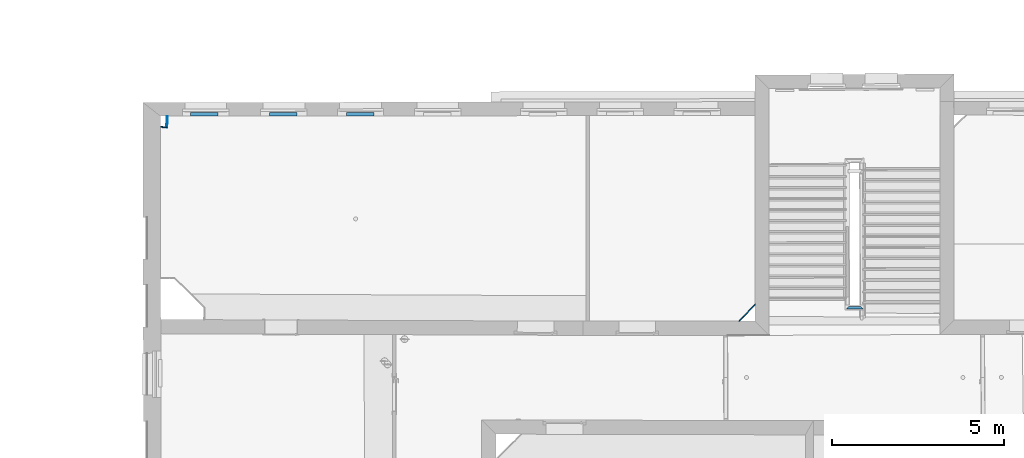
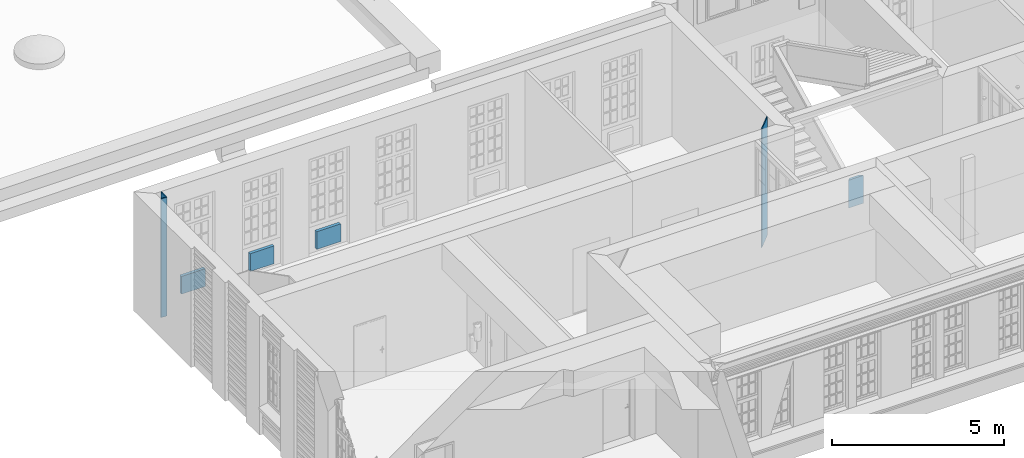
# One storey, part 16 of 90: 7 walls.
"""IFC2X3 building model written with IfcOpenShell, lengths in metres."""

import ifcopenshell
import ifcopenshell.guid

model = None  # the IFC model being written
_history = None  # IfcOwnerHistory: only IFC2X3 demands one
_inside = {}  # id of a spatial element -> (the spatial element, [elements in it])
_under = {}  # id of a project, library or spatial element -> (it, [spatial elements below it])
_declared = {}  # id of a project -> (the project, [libraries it declares])
_typed = {}  # id of a type object -> (the type object, [elements of that type])
_made_of = {}  # id of a material, layer set ... -> (it, [elements and type objects made of it])


def new_model(schema):
    """Start an empty IFC model of exactly this schema.

    Asked for "IFC4X3", IfcOpenShell would pick the latest addendum, in which some entities
    have other attributes; the version numbers below select the first issue.
    IFC2X3 requires an IfcOwnerHistory on every rooted entity: one is made here for all.
    """
    global model, _history
    if schema == "IFC4X3":
        model = ifcopenshell.file(schema_version=(4, 3, 0, 0))
    else:
        model = ifcopenshell.file(schema=schema)
    _inside.clear()
    _under.clear()
    _declared.clear()
    _typed.clear()
    _made_of.clear()
    _history = None
    if model.schema == "IFC2X3":
        org = make("IfcOrganization", Name="unknown")
        user = make(
            "IfcPersonAndOrganization",
            ThePerson=make("IfcPerson", FamilyName="unknown"),
            TheOrganization=org,
        )
        app = make(
            "IfcApplication",
            ApplicationDeveloper=org,
            Version="unknown",
            ApplicationFullName="unknown",
            ApplicationIdentifier="unknown",
        )
        _history = make(
            "IfcOwnerHistory",
            OwningUser=user,
            OwningApplication=app,
            ChangeAction="ADDED",
            CreationDate=0,
        )
    return model


def make(cls, **values):
    """One entity of the class cls with the attributes given. An attribute that is None is left unset."""
    return model.create_entity(
        cls, **{name: value for name, value in values.items() if value is not None}
    )


def entity(cls, *values):
    """Any entity or typed value of the class cls, its attributes in the order of the schema. None: left unset."""
    e = model.create_entity(cls)
    for i, value in enumerate(values):
        if value is not None:
            e[i] = value
    return e


def rooted(cls, **values):
    """An entity with a GlobalId (a new one), such as an element, a storey or a relation."""
    return make(cls, GlobalId=ifcopenshell.guid.new(), OwnerHistory=_history, **values)


def si_unit(unit_type, name, prefix=None):
    """IfcSIUnit, for example si_unit("LENGTHUNIT", "METRE", prefix="MILLI")."""
    return make("IfcSIUnit", UnitType=unit_type, Prefix=prefix, Name=name)


def converted_unit(unit_type, name, factor, base, dimensions=None, offset=None):
    """IfcConversionBasedUnit, such as the inch: factor (a typed value) times the base unit."""
    return make(
        "IfcConversionBasedUnit"
        if offset is None
        else "IfcConversionBasedUnitWithOffset",
        ConversionOffset=offset,
        Dimensions=None
        if dimensions is None
        else entity("IfcDimensionalExponents", *dimensions),
        UnitType=unit_type,
        Name=name,
        ConversionFactor=make(
            "IfcMeasureWithUnit", ValueComponent=factor, UnitComponent=base
        ),
    )


def derived_unit(unit_type, elements):
    """IfcDerivedUnit: a product of units, each with its exponent."""
    return make(
        "IfcDerivedUnit",
        Elements=[
            make("IfcDerivedUnitElement", Unit=unit, Exponent=power)
            for unit, power in elements
        ],
        UnitType=unit_type,
    )


def money_unit(currency):
    """IfcMonetaryUnit."""
    return make("IfcMonetaryUnit", Currency=currency)


def assignment(units):
    """IfcUnitAssignment: the units of a project."""
    return None if units is None else make("IfcUnitAssignment", Units=units)


def point(xyz):
    """IfcCartesianPoint."""
    return None if xyz is None else make("IfcCartesianPoint", Coordinates=xyz)


def direction(xyz):
    """IfcDirection."""
    return None if xyz is None else make("IfcDirection", DirectionRatios=xyz)


def frame(location, z_axis=None, x_axis=None):
    """IfcAxis2Placement3D, a coordinate frame: its origin and axes. An axis left out is left unset."""
    return make(
        "IfcAxis2Placement3D",
        Location=point(location),
        Axis=direction(z_axis),
        RefDirection=direction(x_axis),
    )


def origin_with_axes():
    """The frame at (0, 0, 0) with the z axis (0, 0, 1) and the x axis (1, 0, 0) written out."""
    return frame((0.0, 0.0, 0.0), z_axis=(0.0, 0.0, 1.0), x_axis=(1.0, 0.0, 0.0))


def place(relative_to, where):
    """IfcLocalPlacement: puts the frame where relative to a parent placement (None: the world)."""
    return make(
        "IfcLocalPlacement", PlacementRelTo=relative_to, RelativePlacement=where
    )


def context(
    kind, dimensions, precision=None, world=None, true_north=None, identifier=None
):
    """IfcGeometricRepresentationContext, for example the 3D "Model" context."""
    return make(
        "IfcGeometricRepresentationContext",
        ContextIdentifier=identifier,
        ContextType=kind,
        CoordinateSpaceDimension=dimensions,
        Precision=precision,
        WorldCoordinateSystem=world,
        TrueNorth=true_north,
    )


def subcontext(parent, identifier, kind, view, scale=None):
    """IfcGeometricRepresentationSubContext, for example "Body" below "Model"."""
    return make(
        "IfcGeometricRepresentationSubContext",
        ContextIdentifier=identifier,
        ContextType=kind,
        ParentContext=parent,
        TargetScale=scale,
        TargetView=view,
    )


def project(units=None, contexts=None):
    """IfcProject with its units and contexts."""
    return rooted(
        "IfcProject",
        Name="project",
        RepresentationContexts=contexts,
        UnitsInContext=assignment(units),
    )


def spatial(cls, under=None, at=None, **own):
    """A site, building, storey or space (cls), placed at a placement, below another one or the project."""
    s = rooted(cls, ObjectPlacement=at, **own)
    if under is not None:
        _under.setdefault(under.id(), (under, []))[1].append(s)
    return s


def polyline(points):
    """IfcPolyline through the points."""
    return make("IfcPolyline", Points=[point(p) for p in points])


def outline(outer, holes=None, kind="AREA"):
    """IfcArbitraryClosedProfileDef: a profile drawn as a closed curve; with holes, ...WithVoids."""
    if holes is None:
        return make("IfcArbitraryClosedProfileDef", ProfileType=kind, OuterCurve=outer)
    return make(
        "IfcArbitraryProfileDefWithVoids",
        ProfileType=kind,
        OuterCurve=outer,
        InnerCurves=holes,
    )


def extrude(swept, where, along, depth):
    """IfcExtrudedAreaSolid: the profile swept, set in the frame where, extruded along a direction by depth."""
    return make(
        "IfcExtrudedAreaSolid",
        SweptArea=swept,
        Position=where,
        ExtrudedDirection=direction(along),
        Depth=depth,
    )


def shape(context_of_items, identifier, shape_type, items):
    """IfcShapeRepresentation: the items that make up one representation, for example the "Body"."""
    return make(
        "IfcShapeRepresentation",
        ContextOfItems=context_of_items,
        RepresentationIdentifier=identifier,
        RepresentationType=shape_type,
        Items=items,
    )


def material(Name=None, Category=None):
    """IfcMaterial."""
    return make("IfcMaterial", Name=Name, Category=Category)


def layer(
    of_material, thickness, ventilated=None, Name=None, Category=None, Priority=None
):
    """IfcMaterialLayer: one layer of a wall or slab, of a material (None: an air gap)."""
    return make(
        "IfcMaterialLayer",
        Material=of_material,
        LayerThickness=thickness,
        IsVentilated=ventilated,
        Name=Name,
        Category=Category,
        Priority=Priority,
    )


def layer_set(layers, Name=None):
    """IfcMaterialLayerSet."""
    return make("IfcMaterialLayerSet", MaterialLayers=layers, LayerSetName=Name)


def layer_usage(for_layer_set, set_direction, sense, offset, extent=None):
    """IfcMaterialLayerSetUsage: how a layer set lies in its element."""
    return make(
        "IfcMaterialLayerSetUsage",
        ForLayerSet=for_layer_set,
        LayerSetDirection=set_direction,
        DirectionSense=sense,
        OffsetFromReferenceLine=offset,
        ReferenceExtent=extent,
    )


def made_of(thing, what):
    """Note that an element or type object is made of a material, layer set ...; save() writes the relation."""
    if what is not None:
        _made_of.setdefault(what.id(), (what, []))[1].append(thing)
    return thing


def type_object(cls, material=None, **own):
    """A type object (cls), such as IfcWallType, which elements share."""
    return made_of(rooted(cls, **own), material)


def element(
    cls,
    number,
    at=None,
    inside=None,
    cuts=None,
    type_object=None,
    material=None,
    context=None,
    identifier="Body",
    shape_type=None,
    held_by="IfcProductDefinitionShape",
    body=None,
    shapes=None,
    **own,
):
    """One element of the class cls, such as IfcWall. Its Tag is "e" and its number.

    at: its placement. inside: the storey or other place that contains it. cuts: it is an
    opening in that element (IfcRelVoidsElement). A single representation is given by context,
    identifier, shape_type and body (its items); several are given by shapes. held_by: the class
    of the entity that holds the representations. save() writes the other relations.
    """
    e = rooted(cls, Tag="e%d" % number, ObjectPlacement=at, **own)
    if body is not None:
        shapes = [shape(context, identifier, shape_type, body)]
    if shapes is not None:
        e.Representation = make(held_by, Representations=shapes)
    if inside is not None:
        _inside.setdefault(inside.id(), (inside, []))[1].append(e)
    if cuts is not None:
        rooted(
            "IfcRelVoidsElement", RelatingBuildingElement=cuts, RelatedOpeningElement=e
        )
    if type_object is not None:
        _typed.setdefault(type_object.id(), (type_object, []))[1].append(e)
    return made_of(e, material)


def aggregate(whole, parts):
    """IfcRelAggregates: a whole, such as a stair, and the parts it consists of."""
    return rooted("IfcRelAggregates", RelatingObject=whole, RelatedObjects=parts)


def save(model, path):
    """Write the relations noted so far, then the file.

    IfcRelAggregates (storeys below a building ...), IfcRelContainedInSpatialStructure (elements
    in a storey), IfcRelDefinesByType, IfcRelAssociatesMaterial and IfcRelDeclares: one each for
    every whole, place, type object, material and project.
    """
    for whole, parts in _under.values():
        aggregate(whole, parts)
    for where, things in _inside.values():
        rooted(
            "IfcRelContainedInSpatialStructure",
            RelatedElements=things,
            RelatingStructure=where,
        )
    for kind, things in _typed.values():
        rooted("IfcRelDefinesByType", RelatedObjects=things, RelatingType=kind)
    for what, things in _made_of.values():
        rooted("IfcRelAssociatesMaterial", RelatedObjects=things, RelatingMaterial=what)
    for by, libraries in _declared.values():
        rooted("IfcRelDeclares", RelatingContext=by, RelatedDefinitions=libraries)
    model.write(path)


model = new_model("IFC2X3")

# Units and contexts
model_context = context("Model", 3, precision=1e-05, world=origin_with_axes(), true_north=direction((0.0, 1.0)))
body_context = subcontext(model_context, "Body", "Model", "MODEL_VIEW")
ifc_project = project(units=[si_unit("LENGTHUNIT", "METRE"), si_unit("AREAUNIT", "SQUARE_METRE"), si_unit("VOLUMEUNIT", "CUBIC_METRE"), converted_unit("PLANEANGLEUNIT", "DEGREE", entity("IfcPlaneAngleMeasure", 0.0174532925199), si_unit("PLANEANGLEUNIT", "RADIAN"), dimensions=[0, 0, 0, 0, 0, 0, 0]), money_unit("EUR"), converted_unit("TIMEUNIT", "Year", entity("IfcTimeMeasure", 31556926.0), si_unit("TIMEUNIT", "SECOND"), dimensions=[0, 0, 1, 0, 0, 0, 0]), si_unit("MASSUNIT", "GRAM", prefix="KILO"), si_unit("THERMODYNAMICTEMPERATUREUNIT", "DEGREE_CELSIUS"), si_unit("LUMINOUSINTENSITYUNIT", "LUMEN"), si_unit("ENERGYUNIT", "JOULE", prefix="MEGA"), derived_unit("THERMALCONDUCTANCEUNIT", [(si_unit("POWERUNIT", "WATT"), 1), (si_unit("LENGTHUNIT", "METRE"), -1), (si_unit("THERMODYNAMICTEMPERATUREUNIT", "KELVIN"), -1)]), derived_unit("SPECIFICHEATCAPACITYUNIT", [(si_unit("ENERGYUNIT", "JOULE"), 1), (si_unit("MASSUNIT", "GRAM", prefix="KILO"), -1), (si_unit("THERMODYNAMICTEMPERATUREUNIT", "KELVIN"), -1)]), derived_unit("MASSDENSITYUNIT", [(si_unit("MASSUNIT", "GRAM", prefix="KILO"), 1), (si_unit("VOLUMEUNIT", "CUBIC_METRE"), -1)])], contexts=[model_context])

# Site, building, storey
site_placement = place(None, origin_with_axes())
site = spatial("IfcSite", under=ifc_project, at=site_placement, Name="Gelände", CompositionType="ELEMENT")
building_placement = place(site_placement, origin_with_axes())
building = spatial("IfcBuilding", under=site, at=building_placement, Name="Gebäude", CompositionType="ELEMENT")
storey_placement = place(building_placement, frame((0.0, 0.0, 3.7), z_axis=(0.0, 0.0, 1.0), x_axis=(1.0, 0.0, 0.0)))
storey = spatial("IfcBuildingStorey", under=building, at=storey_placement, Name="1.OBERGESCHOSS", CompositionType="ELEMENT", Elevation=3.7)

# Walls
ifc_material_1 = material(Name="43_Gipskarton")
ifc_layer_1 = layer(ifc_material_1, 0.03, ventilated="UNKNOWN")
ifc_layer_set_1 = layer_set([ifc_layer_1], Name="43_Gipskarton 0.03")
ifc_layer_usage_1 = layer_usage(ifc_layer_set_1, "AXIS2", "NEGATIVE", 0.03)
wall_type_1 = type_object("IfcWallType", Name="43_Gipskarton 30", PredefinedType="ELEMENTEDWALL")
wall_1_placement = place(storey_placement, frame((-9.84160558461, 20.5891199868, -0.1), z_axis=(0.0, 0.0, 1.0), x_axis=(-0.694868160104, -0.719137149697, 0.0)))
element("IfcWallStandardCase", 1, at=wall_1_placement, inside=storey, type_object=wall_type_1, material=ifc_layer_usage_1, Name="Wand-041", ObjectType="ELEMENTEDWALL", context=body_context, shape_type="SweptSolid", body=[
    extrude(outline(polyline([(0.589982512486, 0.0), (1.28506033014, 0.0), (1.256054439, 0.03), (0.621024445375, 0.03), (0.589982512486, 0.0)])), origin_with_axes(), (0.0, 0.0, 1.0), 4.2),
])
ifc_layer_usage_2 = layer_usage(ifc_layer_set_1, "AXIS2", "NEGATIVE", 0.03)
wall_2_placement = place(storey_placement, frame((-28.0680602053, 25.3201114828, -0.1), z_axis=(0.0, 0.0, 1.0), x_axis=(0.999428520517, -0.0338028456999, 0.0)))
element("IfcWallStandardCase", 2, at=wall_2_placement, inside=storey, type_object=wall_type_1, material=ifc_layer_usage_2, Name="Wand-043", ObjectType="ELEMENTEDWALL", context=body_context, shape_type="SweptSolid", body=[
    extrude(outline(polyline([(0.510307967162, 0.0), (0.709739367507, 0.0), (0.679436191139, 0.03), (0.509265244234, 0.03), (0.510307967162, 0.0)])), origin_with_axes(), (0.0, 0.0, 1.0), 4.2),
])
ifc_layer_usage_3 = layer_usage(ifc_layer_set_1, "AXIS2", "NEGATIVE", 0.03)
wall_3_placement = place(storey_placement, frame((-27.3587264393, 25.2961202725, -0.1), z_axis=(0.0, 0.0, 1.0), x_axis=(0.0237520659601, 0.999717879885, 0.0)))
element("IfcWallStandardCase", 3, at=wall_3_placement, inside=storey, type_object=wall_type_1, material=ifc_layer_usage_3, Name="Wand-044", ObjectType="ELEMENTEDWALL", context=body_context, shape_type="SweptSolid", body=[
    extrude(outline(polyline([(0.0, 0.0), (0.333248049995, 0.0), (0.332493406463, 0.03), (0.0303031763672, 0.03), (0.0, 0.0)])), origin_with_axes(), (0.0, 0.0, 1.0), 4.2),
])
ifc_material_2 = material(Name="01_ALLGEMEIN - BAUTEIL")
ifc_layer_2 = layer(ifc_material_2, 0.105, ventilated="UNKNOWN")
ifc_layer_set_2 = layer_set([ifc_layer_2], Name="01_ALLGEMEIN - BAUTEIL 0.105")
ifc_layer_usage_4 = layer_usage(ifc_layer_set_2, "AXIS2", "NEGATIVE", 0.105)
wall_type_2 = type_object("IfcWallType", Name="01_ALLGEMEIN - BAUTEIL 105", PredefinedType="ELEMENTEDWALL")
wall_4_placement = place(storey_placement, frame((-26.6820868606, 25.6326099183, 0.222143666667), z_axis=(0.0, 0.0, 1.0), x_axis=(0.999998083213, 0.00195795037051, 0.0)))
element("IfcWallStandardCase", 4, at=wall_4_placement, inside=storey, type_object=wall_type_2, material=ifc_layer_usage_4, Name="Wand-035", ObjectType="ELEMENTEDWALL", context=body_context, shape_type="SweptSolid", body=[
    extrude(outline(polyline([(0.0, 0.0), (0.799991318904, 0.0), (0.799991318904, 0.105), (0.0, 0.105), (0.0, 0.0)])), origin_with_axes(), (0.0, 0.0, 1.0), 0.626381),
])
ifc_layer_usage_5 = layer_usage(ifc_layer_set_2, "AXIS2", "NEGATIVE", 0.105)
wall_5_placement = place(storey_placement, frame((-24.3807340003, 25.6319100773, 0.222143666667), z_axis=(0.0, 0.0, 1.0), x_axis=(0.999998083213, 0.00195795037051, 0.0)))
element("IfcWallStandardCase", 5, at=wall_5_placement, inside=storey, type_object=wall_type_2, material=ifc_layer_usage_5, Name="Wand-035", ObjectType="ELEMENTEDWALL", context=body_context, shape_type="SweptSolid", body=[
    extrude(outline(polyline([(0.0, 0.0), (0.799991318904, 0.0), (0.799991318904, 0.105), (0.0, 0.105), (0.0, 0.0)])), origin_with_axes(), (0.0, 0.0, 1.0), 0.626381),
])
ifc_layer_usage_6 = layer_usage(ifc_layer_set_2, "AXIS2", "NEGATIVE", 0.105)
wall_6_placement = place(storey_placement, frame((-22.1511768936, 25.6312320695, 0.222143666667), z_axis=(0.0, 0.0, 1.0), x_axis=(0.999998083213, 0.00195795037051, 0.0)))
element("IfcWallStandardCase", 6, at=wall_6_placement, inside=storey, type_object=wall_type_2, material=ifc_layer_usage_6, Name="Wand-035", ObjectType="ELEMENTEDWALL", context=body_context, shape_type="SweptSolid", body=[
    extrude(outline(polyline([(0.0, 0.0), (0.799991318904, 0.0), (0.799991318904, 0.105), (0.0, 0.105), (0.0, 0.0)])), origin_with_axes(), (0.0, 0.0, 1.0), 0.626381),
])
ifc_material_3 = material(Name="05_ALLGEMEIN - TRAGENDE BAUTEILE")
ifc_layer_3 = layer(ifc_material_3, 0.0820226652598, ventilated="UNKNOWN")
ifc_layer_set_3 = layer_set([ifc_layer_3], Name="05_ALLGEMEIN - TRAGENDE BAUTEILE 0.0820227")
ifc_layer_usage_7 = layer_usage(ifc_layer_set_3, "AXIS2", "NEGATIVE", 0.0)
wall_type_3 = type_object("IfcWallType", Name="05_ALLGEMEIN - TRAGENDE BAUTEILE 82", PredefinedType="ELEMENTEDWALL")
wall_7_placement = place(storey_placement, frame((-7.18122902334, 20.0149857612, -0.00542320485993), z_axis=(0.0, 0.0, 1.0), x_axis=(-0.999977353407, -0.00672998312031, 0.0)))
element("IfcWallStandardCase", 7, at=wall_7_placement, inside=storey, type_object=wall_type_3, material=ifc_layer_usage_7, Name="Wand-038", ObjectType="ELEMENTEDWALL", context=body_context, shape_type="SweptSolid", body=[
    extrude(outline(polyline([(-2.05618680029e-05, -0.0820226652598), (0.341463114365, -0.0820226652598), (0.423843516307, 0.0), (-0.0820226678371, 0.0), (-2.05618680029e-05, -0.0820226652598)])), origin_with_axes(), (0.0, 0.0, 1.0), 0.98846980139),
])

save(model, "model.ifc")
